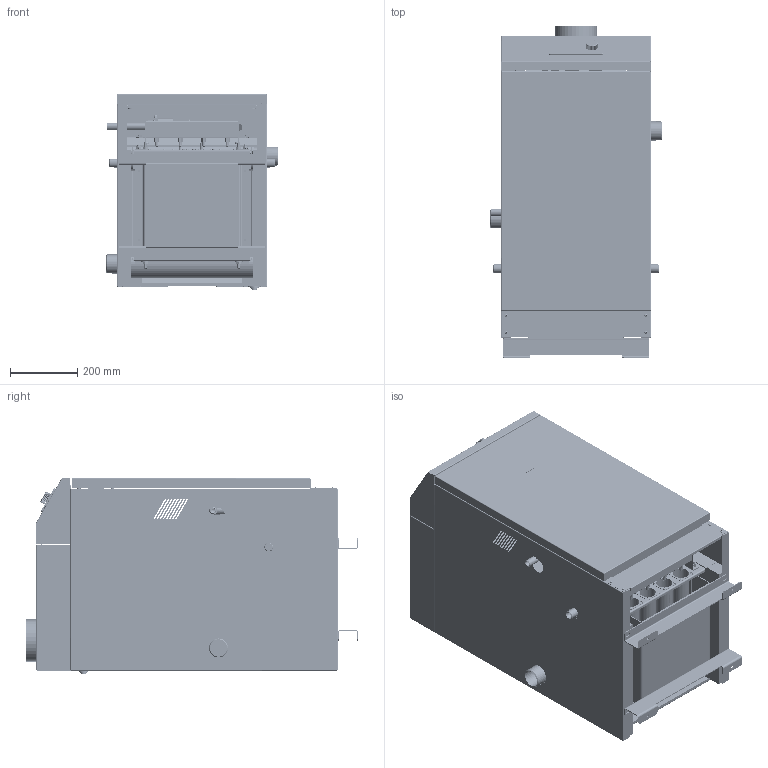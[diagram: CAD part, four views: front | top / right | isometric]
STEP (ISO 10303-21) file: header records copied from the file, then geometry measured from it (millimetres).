
FILE_DESCRIPTION(('STEP AP242'), '1');
FILE_NAME('ﾒﾈﾒﾀﾍ 2016', '', ('UNSPECIFIED'), ('UNSPECIFIED'), 'ASCON STEP Converter 1.6', 'ASCON Math Kernel', '');
FILE_SCHEMA(('AP242_MANAGED_MODEL_BASED_3D_ENGINEERING_MIM_LF { 1 0 10303 442 1 1 4 }'));
Length unit declared in the file: millimetre
Products named in the file (114): КЕВМ.3105.00.00.000-12; КЕВМ.3105.01.00.000-02; -02; КЕВМ.3103.01.01.002-02; КЕВМ.3103.01.02.001; КЕВМ.3103.01.02.003-02; КЕВМ.3103.01.02.004; КЕВМ.3103.01.02.007; -01; Заглушка Ду15; Клапан манометра 1_2'''' х 1_4''''; Колба защитная; Кран маевского; Заглушка Ду50; КЕВМ.3105.02.00.000-02; КЕВМ.3105.02.01.004-01; -03; КЕВМ.3105.02.01.000-02; КЕВМ.3105.02.01.004; КЕВМ.3103.02.01.002; ШАЙБА под форсунки; КЕВМ.3105.02.01.001-02; КЕВМ.3105.02.00.003; VTr.090.N.0004; КЕВМ.3105.02.00.002-02; КЕВМ.3105.02.00.001-02; -22; КЕВМ.3105.00.00.003-02; КЕВМ.3105.00.00.002-02; КЕВМ.3105.00.00.004-02; Термостат аварийный IMIT; Колпачек термостата; Значек нет тчги 10х10; Значек закипание 10х10; КЕВМ.3105.04.00.000-12; КЕВМ.3105.04.00.001-12; КЕВМ.3105.04.01.000; КЕВМ.3105.04.01.001; КЕВМ.3105.04.01.002; -04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
Assembly tree (205 placements, depth 5):
  КЕВМ.3105.00.00.000-12
    КЕВМ.3105.01.00.000-02
      -02
      -02
        -02
        КЕВМ.3103.01.01.002-02  x2
      -02
        -02
        (unnamed)
        КЕВМ.3103.01.02.001
        -02
        -02
        КЕВМ.3103.01.02.003-02
        КЕВМ.3103.01.02.004
        КЕВМ.3103.01.02.007
      -02
      -02
      (unnamed)
      -01
      Заглушка Ду15
      Клапан манометра 1_2'''' х 1_4''''
      Колба защитная
      Кран маевского
      Заглушка Ду50  x2
      (unnamed)  x2
      (unnamed)  x2
      (unnamed)  x4
      (unnamed)  x6
      (unnamed)  x2
      (unnamed)  x2
    КЕВМ.3105.02.00.000-02
      КЕВМ.3105.02.01.004-01
      (unnamed)
      (unnamed)  x2
      (unnamed)  x4
      (unnamed)  x16
      -01
      -03  x4
      (unnamed)
        (unnamed)
      (unnamed)  x2
      (unnamed)  x2
      (unnamed)  x2
      (unnamed)
      КЕВМ.3105.02.01.000-02
        КЕВМ.3105.02.01.004
        КЕВМ.3103.02.01.002  x2
        (unnamed)
        (unnamed)  x4
          (unnamed)
          ШАЙБА под форсунки
        КЕВМ.3105.02.01.001-02
      (unnamed)
      КЕВМ.3105.02.00.003
      VTr.090.N.0004
      КЕВМ.3105.02.00.002-02
      КЕВМ.3105.02.00.001-02
      (unnamed)
    (unnamed)  x2
    -22
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Bounding box: 510 x 986 x 583.81 mm (x, y, z)
Volume: 74938849.9 mm3; surface area: 10887767.5 mm2
Topology: 227 solids, 227 shells, 7471 faces, 18962 edges, 12287 vertices
Faces by surface type: plane 4346, cylinder 2414, bspline 287, cone 183, torus 111, extrusion 72, sphere 58
Full cylindrical faces by diameter (mm): 0.7 x528, 1 x1, 1.5 x8, 2 x9, 2.5 x13, 2.7 x4, 2.9 x21, 3 x36, 3.2 x36, 3.242 x1, 3.3 x8, 3.5 x28, 4 x46, 4.2 x10, 4.4 x1, 4.5 x12, 4.7 x1, 5 x16, 5.6 x17, 5.8 x1, 6 x9, 6.647 x10, 6.917 x4, 6.95 x2, 7 x6, 7.8 x2, 8 x36, 8.5 x4, 9 x31, 9.2 x2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
Entity records: 186190 total; most frequent: CARTESIAN_POINT 62138, DIRECTION 21376, ORIENTED_EDGE 21132, EDGE_CURVE 10566, AXIS2_PLACEMENT_3D 7192, VERTEX_POINT 7113, VECTOR 6992, LINE 6920
